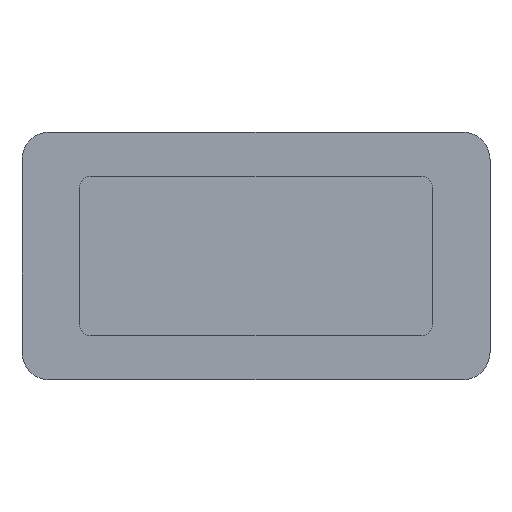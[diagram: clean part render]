
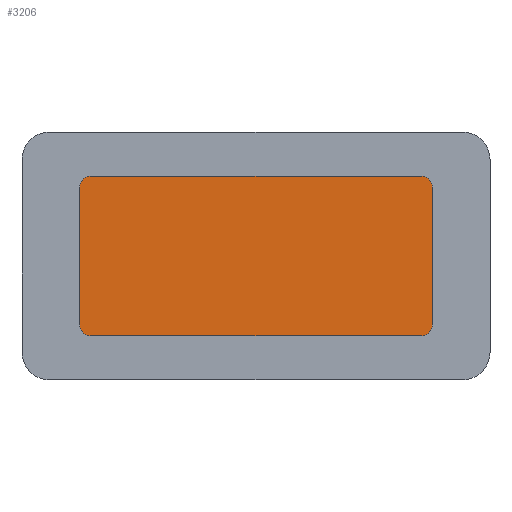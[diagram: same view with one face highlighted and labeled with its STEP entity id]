
A CAD part, top view. The second image highlights one B-rep face of the part: STEP entity #3206.
In plain terms, the highlighted planar face has unit normal (0, 0, 1).
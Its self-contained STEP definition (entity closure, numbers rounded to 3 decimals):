
#2601 = PLANE('',#2602);
#2602 = AXIS2_PLACEMENT_3D('',#2603,#2604,#2605);
#2603 = CARTESIAN_POINT('',(-13.8,-6.8,-0.1));
#2604 = DIRECTION('',(0.,1.,0.));
#2605 = DIRECTION('',(1.,0.,0.));
#2629 = CYLINDRICAL_SURFACE('',#2630,1.8);
#2630 = AXIS2_PLACEMENT_3D('',#2631,#2632,#2633);
#2631 = CARTESIAN_POINT('',(12.,-5.,-0.1));
#2632 = DIRECTION('',(0.,0.,1.));
#2633 = DIRECTION('',(0.,-1.,0.));
#2656 = PLANE('',#2657);
#2657 = AXIS2_PLACEMENT_3D('',#2658,#2659,#2660);
#2658 = CARTESIAN_POINT('',(13.8,-6.8,-0.1));
#2659 = DIRECTION('',(-1.,0.,0.));
#2660 = DIRECTION('',(0.,1.,0.));
#2684 = CYLINDRICAL_SURFACE('',#2685,1.8);
#2685 = AXIS2_PLACEMENT_3D('',#2686,#2687,#2688);
#2686 = CARTESIAN_POINT('',(12.,5.,-0.1));
#2687 = DIRECTION('',(0.,0.,1.));
#2688 = DIRECTION('',(1.,0.,-0.));
#2711 = PLANE('',#2712);
#2712 = AXIS2_PLACEMENT_3D('',#2713,#2714,#2715);
#2713 = CARTESIAN_POINT('',(13.8,6.8,-0.1));
#2714 = DIRECTION('',(0.,-1.,0.));
#2715 = DIRECTION('',(-1.,0.,0.));
#2739 = CYLINDRICAL_SURFACE('',#2740,1.8);
#2740 = AXIS2_PLACEMENT_3D('',#2741,#2742,#2743);
#2741 = CARTESIAN_POINT('',(-12.,5.,-0.1));
#2742 = DIRECTION('',(0.,0.,1.));
#2743 = DIRECTION('',(-0.,1.,0.));
#2766 = PLANE('',#2767);
#2767 = AXIS2_PLACEMENT_3D('',#2768,#2769,#2770);
#2768 = CARTESIAN_POINT('',(-13.8,6.8,-0.1));
#2769 = DIRECTION('',(1.,0.,-0.));
#2770 = DIRECTION('',(0.,-1.,0.));
#2792 = CYLINDRICAL_SURFACE('',#2793,1.8);
#2793 = AXIS2_PLACEMENT_3D('',#2794,#2795,#2796);
#2794 = CARTESIAN_POINT('',(-12.,-5.,-0.1));
#2795 = DIRECTION('',(0.,0.,1.));
#2796 = DIRECTION('',(0.,-1.,0.));
#2818 = VERTEX_POINT('',#2819);
#2819 = CARTESIAN_POINT('',(12.,-6.8,0.4));
#2840 = EDGE_CURVE('',#2818,#2841,#2843,.T.);
#2841 = VERTEX_POINT('',#2842);
#2842 = CARTESIAN_POINT('',(-12.,-6.8,0.4));
#2843 = SURFACE_CURVE('',#2844,(#2848,#2854),.PCURVE_S1.);
#2844 = LINE('',#2845,#2846);
#2845 = CARTESIAN_POINT('',(-6.9,-6.8,0.4));
#2846 = VECTOR('',#2847,1.);
#2847 = DIRECTION('',(-1.,0.,0.));
#2848 = PCURVE('',#2601,#2849);
#2849 = DEFINITIONAL_REPRESENTATION('',(#2850),#2853);
#2850 = B_SPLINE_CURVE_WITH_KNOTS('',1,(#2851,#2852),.UNSPECIFIED.,.F.,
  .F.,(2,2),(-18.9,5.1),.PIECEWISE_BEZIER_KNOTS.);
#2851 = CARTESIAN_POINT('',(25.8,-0.5));
#2852 = CARTESIAN_POINT('',(1.8,-0.5));
#2853 = ( GEOMETRIC_REPRESENTATION_CONTEXT(2) 
PARAMETRIC_REPRESENTATION_CONTEXT() REPRESENTATION_CONTEXT('2D SPACE',''
  ) );
#2854 = PCURVE('',#2855,#2860);
#2855 = PLANE('',#2856);
#2856 = AXIS2_PLACEMENT_3D('',#2857,#2858,#2859);
#2857 = CARTESIAN_POINT('',(0.,0.,0.4));
#2858 = DIRECTION('',(0.,0.,1.));
#2859 = DIRECTION('',(1.,0.,-0.));
#2860 = DEFINITIONAL_REPRESENTATION('',(#2861),#2864);
#2861 = B_SPLINE_CURVE_WITH_KNOTS('',1,(#2862,#2863),.UNSPECIFIED.,.F.,
  .F.,(2,2),(-18.9,5.1),.PIECEWISE_BEZIER_KNOTS.);
#2862 = CARTESIAN_POINT('',(12.,-6.8));
#2863 = CARTESIAN_POINT('',(-12.,-6.8));
#2864 = ( GEOMETRIC_REPRESENTATION_CONTEXT(2) 
PARAMETRIC_REPRESENTATION_CONTEXT() REPRESENTATION_CONTEXT('2D SPACE',''
  ) );
#2892 = EDGE_CURVE('',#2893,#2841,#2895,.T.);
#2893 = VERTEX_POINT('',#2894);
#2894 = CARTESIAN_POINT('',(-13.8,-5.,0.4));
#2895 = SURFACE_CURVE('',#2896,(#2901,#2908),.PCURVE_S1.);
#2896 = CIRCLE('',#2897,1.8);
#2897 = AXIS2_PLACEMENT_3D('',#2898,#2899,#2900);
#2898 = CARTESIAN_POINT('',(-12.,-5.,0.4));
#2899 = DIRECTION('',(0.,0.,1.));
#2900 = DIRECTION('',(0.,-1.,0.));
#2901 = PCURVE('',#2792,#2902);
#2902 = DEFINITIONAL_REPRESENTATION('',(#2903),#2907);
#2903 = LINE('',#2904,#2905);
#2904 = CARTESIAN_POINT('',(-6.283,0.5));
#2905 = VECTOR('',#2906,1.);
#2906 = DIRECTION('',(1.,-0.));
#2907 = ( GEOMETRIC_REPRESENTATION_CONTEXT(2) 
PARAMETRIC_REPRESENTATION_CONTEXT() REPRESENTATION_CONTEXT('2D SPACE',''
  ) );
#2908 = PCURVE('',#2855,#2909);
#2909 = DEFINITIONAL_REPRESENTATION('',(#2910),#2914);
#2910 = CIRCLE('',#2911,1.8);
#2911 = AXIS2_PLACEMENT_2D('',#2912,#2913);
#2912 = CARTESIAN_POINT('',(-12.,-5.));
#2913 = DIRECTION('',(0.,-1.));
#2914 = ( GEOMETRIC_REPRESENTATION_CONTEXT(2) 
PARAMETRIC_REPRESENTATION_CONTEXT() REPRESENTATION_CONTEXT('2D SPACE',''
  ) );
#2942 = EDGE_CURVE('',#2893,#2943,#2945,.T.);
#2943 = VERTEX_POINT('',#2944);
#2944 = CARTESIAN_POINT('',(-13.8,5.,0.4));
#2945 = SURFACE_CURVE('',#2946,(#2950,#2956),.PCURVE_S1.);
#2946 = LINE('',#2947,#2948);
#2947 = CARTESIAN_POINT('',(-13.8,3.4,0.4));
#2948 = VECTOR('',#2949,1.);
#2949 = DIRECTION('',(-0.,1.,0.));
#2950 = PCURVE('',#2766,#2951);
#2951 = DEFINITIONAL_REPRESENTATION('',(#2952),#2955);
#2952 = B_SPLINE_CURVE_WITH_KNOTS('',1,(#2953,#2954),.UNSPECIFIED.,.F.,
  .F.,(2,2),(-8.4,1.6),.PIECEWISE_BEZIER_KNOTS.);
#2953 = CARTESIAN_POINT('',(11.8,-0.5));
#2954 = CARTESIAN_POINT('',(1.8,-0.5));
#2955 = ( GEOMETRIC_REPRESENTATION_CONTEXT(2) 
PARAMETRIC_REPRESENTATION_CONTEXT() REPRESENTATION_CONTEXT('2D SPACE',''
  ) );
#2956 = PCURVE('',#2855,#2957);
#2957 = DEFINITIONAL_REPRESENTATION('',(#2958),#2961);
#2958 = B_SPLINE_CURVE_WITH_KNOTS('',1,(#2959,#2960),.UNSPECIFIED.,.F.,
  .F.,(2,2),(-8.4,1.6),.PIECEWISE_BEZIER_KNOTS.);
#2959 = CARTESIAN_POINT('',(-13.8,-5.));
#2960 = CARTESIAN_POINT('',(-13.8,5.));
#2961 = ( GEOMETRIC_REPRESENTATION_CONTEXT(2) 
PARAMETRIC_REPRESENTATION_CONTEXT() REPRESENTATION_CONTEXT('2D SPACE',''
  ) );
#2989 = VERTEX_POINT('',#2990);
#2990 = CARTESIAN_POINT('',(-12.,6.8,0.4));
#3011 = EDGE_CURVE('',#2989,#2943,#3012,.T.);
#3012 = SURFACE_CURVE('',#3013,(#3018,#3025),.PCURVE_S1.);
#3013 = CIRCLE('',#3014,1.8);
#3014 = AXIS2_PLACEMENT_3D('',#3015,#3016,#3017);
#3015 = CARTESIAN_POINT('',(-12.,5.,0.4));
#3016 = DIRECTION('',(0.,0.,1.));
#3017 = DIRECTION('',(-0.,1.,0.));
#3018 = PCURVE('',#2739,#3019);
#3019 = DEFINITIONAL_REPRESENTATION('',(#3020),#3024);
#3020 = LINE('',#3021,#3022);
#3021 = CARTESIAN_POINT('',(0.,0.5));
#3022 = VECTOR('',#3023,1.);
#3023 = DIRECTION('',(1.,0.));
#3024 = ( GEOMETRIC_REPRESENTATION_CONTEXT(2) 
PARAMETRIC_REPRESENTATION_CONTEXT() REPRESENTATION_CONTEXT('2D SPACE',''
  ) );
#3025 = PCURVE('',#2855,#3026);
#3026 = DEFINITIONAL_REPRESENTATION('',(#3027),#3031);
#3027 = CIRCLE('',#3028,1.8);
#3028 = AXIS2_PLACEMENT_2D('',#3029,#3030);
#3029 = CARTESIAN_POINT('',(-12.,5.));
#3030 = DIRECTION('',(0.,1.));
#3031 = ( GEOMETRIC_REPRESENTATION_CONTEXT(2) 
PARAMETRIC_REPRESENTATION_CONTEXT() REPRESENTATION_CONTEXT('2D SPACE',''
  ) );
#3039 = EDGE_CURVE('',#2989,#3040,#3042,.T.);
#3040 = VERTEX_POINT('',#3041);
#3041 = CARTESIAN_POINT('',(12.,6.8,0.4));
#3042 = SURFACE_CURVE('',#3043,(#3047,#3053),.PCURVE_S1.);
#3043 = LINE('',#3044,#3045);
#3044 = CARTESIAN_POINT('',(6.9,6.8,0.4));
#3045 = VECTOR('',#3046,1.);
#3046 = DIRECTION('',(1.,0.,-0.));
#3047 = PCURVE('',#2711,#3048);
#3048 = DEFINITIONAL_REPRESENTATION('',(#3049),#3052);
#3049 = B_SPLINE_CURVE_WITH_KNOTS('',1,(#3050,#3051),.UNSPECIFIED.,.F.,
  .F.,(2,2),(-18.9,5.1),.PIECEWISE_BEZIER_KNOTS.);
#3050 = CARTESIAN_POINT('',(25.8,-0.5));
#3051 = CARTESIAN_POINT('',(1.8,-0.5));
#3052 = ( GEOMETRIC_REPRESENTATION_CONTEXT(2) 
PARAMETRIC_REPRESENTATION_CONTEXT() REPRESENTATION_CONTEXT('2D SPACE',''
  ) );
#3053 = PCURVE('',#2855,#3054);
#3054 = DEFINITIONAL_REPRESENTATION('',(#3055),#3058);
#3055 = B_SPLINE_CURVE_WITH_KNOTS('',1,(#3056,#3057),.UNSPECIFIED.,.F.,
  .F.,(2,2),(-18.9,5.1),.PIECEWISE_BEZIER_KNOTS.);
#3056 = CARTESIAN_POINT('',(-12.,6.8));
#3057 = CARTESIAN_POINT('',(12.,6.8));
#3058 = ( GEOMETRIC_REPRESENTATION_CONTEXT(2) 
PARAMETRIC_REPRESENTATION_CONTEXT() REPRESENTATION_CONTEXT('2D SPACE',''
  ) );
#3086 = VERTEX_POINT('',#3087);
#3087 = CARTESIAN_POINT('',(13.8,5.,0.4));
#3108 = EDGE_CURVE('',#3086,#3040,#3109,.T.);
#3109 = SURFACE_CURVE('',#3110,(#3115,#3122),.PCURVE_S1.);
#3110 = CIRCLE('',#3111,1.8);
#3111 = AXIS2_PLACEMENT_3D('',#3112,#3113,#3114);
#3112 = CARTESIAN_POINT('',(12.,5.,0.4));
#3113 = DIRECTION('',(0.,0.,1.));
#3114 = DIRECTION('',(1.,0.,-0.));
#3115 = PCURVE('',#2684,#3116);
#3116 = DEFINITIONAL_REPRESENTATION('',(#3117),#3121);
#3117 = LINE('',#3118,#3119);
#3118 = CARTESIAN_POINT('',(0.,0.5));
#3119 = VECTOR('',#3120,1.);
#3120 = DIRECTION('',(1.,0.));
#3121 = ( GEOMETRIC_REPRESENTATION_CONTEXT(2) 
PARAMETRIC_REPRESENTATION_CONTEXT() REPRESENTATION_CONTEXT('2D SPACE',''
  ) );
#3122 = PCURVE('',#2855,#3123);
#3123 = DEFINITIONAL_REPRESENTATION('',(#3124),#3128);
#3124 = CIRCLE('',#3125,1.8);
#3125 = AXIS2_PLACEMENT_2D('',#3126,#3127);
#3126 = CARTESIAN_POINT('',(12.,5.));
#3127 = DIRECTION('',(1.,0.));
#3128 = ( GEOMETRIC_REPRESENTATION_CONTEXT(2) 
PARAMETRIC_REPRESENTATION_CONTEXT() REPRESENTATION_CONTEXT('2D SPACE',''
  ) );
#3136 = EDGE_CURVE('',#3086,#3137,#3139,.T.);
#3137 = VERTEX_POINT('',#3138);
#3138 = CARTESIAN_POINT('',(13.8,-5.,0.4));
#3139 = SURFACE_CURVE('',#3140,(#3144,#3150),.PCURVE_S1.);
#3140 = LINE('',#3141,#3142);
#3141 = CARTESIAN_POINT('',(13.8,-3.4,0.4));
#3142 = VECTOR('',#3143,1.);
#3143 = DIRECTION('',(0.,-1.,0.));
#3144 = PCURVE('',#2656,#3145);
#3145 = DEFINITIONAL_REPRESENTATION('',(#3146),#3149);
#3146 = B_SPLINE_CURVE_WITH_KNOTS('',1,(#3147,#3148),.UNSPECIFIED.,.F.,
  .F.,(2,2),(-8.4,1.6),.PIECEWISE_BEZIER_KNOTS.);
#3147 = CARTESIAN_POINT('',(11.8,-0.5));
#3148 = CARTESIAN_POINT('',(1.8,-0.5));
#3149 = ( GEOMETRIC_REPRESENTATION_CONTEXT(2) 
PARAMETRIC_REPRESENTATION_CONTEXT() REPRESENTATION_CONTEXT('2D SPACE',''
  ) );
#3150 = PCURVE('',#2855,#3151);
#3151 = DEFINITIONAL_REPRESENTATION('',(#3152),#3155);
#3152 = B_SPLINE_CURVE_WITH_KNOTS('',1,(#3153,#3154),.UNSPECIFIED.,.F.,
  .F.,(2,2),(-8.4,1.6),.PIECEWISE_BEZIER_KNOTS.);
#3153 = CARTESIAN_POINT('',(13.8,5.));
#3154 = CARTESIAN_POINT('',(13.8,-5.));
#3155 = ( GEOMETRIC_REPRESENTATION_CONTEXT(2) 
PARAMETRIC_REPRESENTATION_CONTEXT() REPRESENTATION_CONTEXT('2D SPACE',''
  ) );
#3183 = EDGE_CURVE('',#2818,#3137,#3184,.T.);
#3184 = SURFACE_CURVE('',#3185,(#3190,#3197),.PCURVE_S1.);
#3185 = CIRCLE('',#3186,1.8);
#3186 = AXIS2_PLACEMENT_3D('',#3187,#3188,#3189);
#3187 = CARTESIAN_POINT('',(12.,-5.,0.4));
#3188 = DIRECTION('',(0.,0.,1.));
#3189 = DIRECTION('',(0.,-1.,0.));
#3190 = PCURVE('',#2629,#3191);
#3191 = DEFINITIONAL_REPRESENTATION('',(#3192),#3196);
#3192 = LINE('',#3193,#3194);
#3193 = CARTESIAN_POINT('',(0.,0.5));
#3194 = VECTOR('',#3195,1.);
#3195 = DIRECTION('',(1.,0.));
#3196 = ( GEOMETRIC_REPRESENTATION_CONTEXT(2) 
PARAMETRIC_REPRESENTATION_CONTEXT() REPRESENTATION_CONTEXT('2D SPACE',''
  ) );
#3197 = PCURVE('',#2855,#3198);
#3198 = DEFINITIONAL_REPRESENTATION('',(#3199),#3203);
#3199 = CIRCLE('',#3200,1.8);
#3200 = AXIS2_PLACEMENT_2D('',#3201,#3202);
#3201 = CARTESIAN_POINT('',(12.,-5.));
#3202 = DIRECTION('',(0.,-1.));
#3203 = ( GEOMETRIC_REPRESENTATION_CONTEXT(2) 
PARAMETRIC_REPRESENTATION_CONTEXT() REPRESENTATION_CONTEXT('2D SPACE',''
  ) );
#3206 = ADVANCED_FACE('',(#3207),#2855,.T.);
#3207 = FACE_BOUND('',#3208,.T.);
#3208 = EDGE_LOOP('',(#3209,#3210,#3211,#3212,#3213,#3214,#3215,#3216));
#3209 = ORIENTED_EDGE('',*,*,#2840,.F.);
#3210 = ORIENTED_EDGE('',*,*,#3183,.T.);
#3211 = ORIENTED_EDGE('',*,*,#3136,.F.);
#3212 = ORIENTED_EDGE('',*,*,#3108,.T.);
#3213 = ORIENTED_EDGE('',*,*,#3039,.F.);
#3214 = ORIENTED_EDGE('',*,*,#3011,.T.);
#3215 = ORIENTED_EDGE('',*,*,#2942,.F.);
#3216 = ORIENTED_EDGE('',*,*,#2892,.T.);
